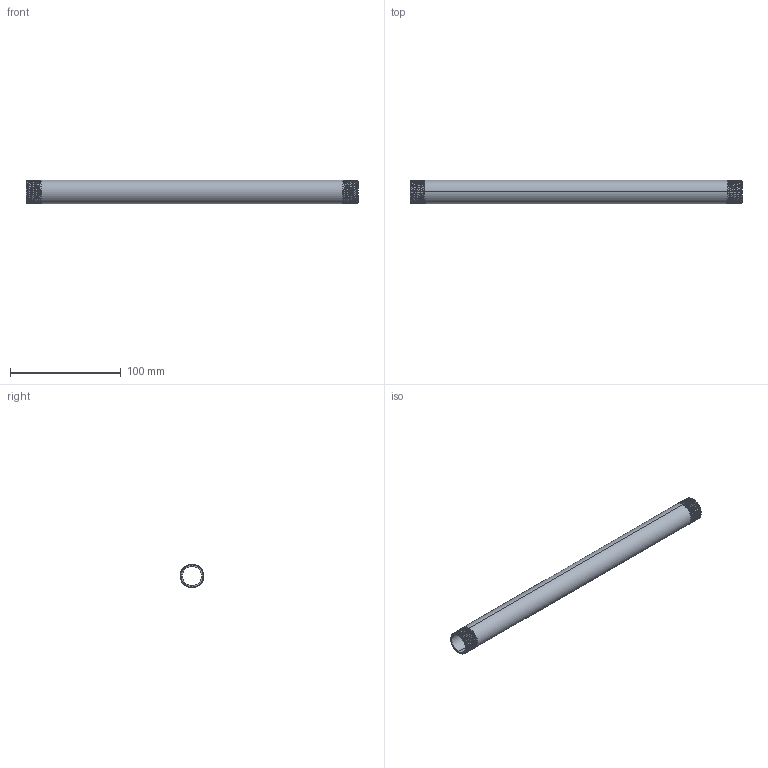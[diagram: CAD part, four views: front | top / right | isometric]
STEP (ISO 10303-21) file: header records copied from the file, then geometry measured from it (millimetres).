
FILE_DESCRIPTION (( 'STEP AP203' ), '1' );
FILE_NAME ('3D_R210_1-2x300_17185948.STEP', '2024-08-16T14:23:53', ( '' ), ( '' ), 'SwSTEP 2.0', 'SolidWorks 2024', '' );
FILE_SCHEMA (( 'CONFIG_CONTROL_DESIGN' ));
Length unit declared in the file: millimetre
Products named in the file (1): 3D_R210_1-2x300_17185948
Bounding box: 300 x 21.3 x 21.3 mm (x, y, z)
Volume: 35629 mm3; surface area: 37421.3 mm2
Topology: 1 solids, 1 shells, 62 faces, 172 edges, 112 vertices
Faces by surface type: cone 48, bspline 6, cylinder 4, plane 4
Entity records: 9237 total; most frequent: CARTESIAN_POINT 7807, ORIENTED_EDGE 344, DIRECTION 190, EDGE_CURVE 172, VERTEX_POINT 112, B_SPLINE_CURVE_WITH_KNOTS 100, AXIS2_PLACEMENT_3D 69, EDGE_LOOP 64
